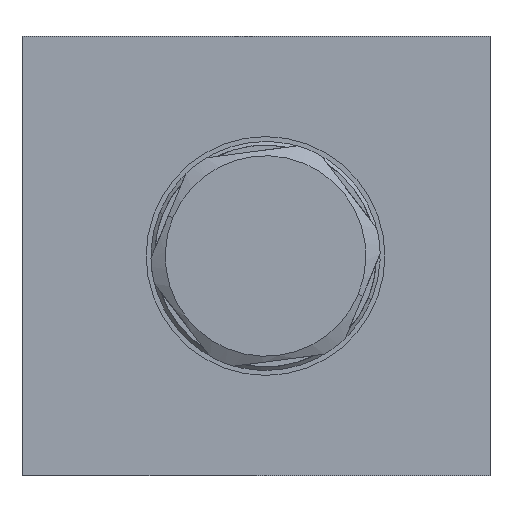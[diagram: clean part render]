
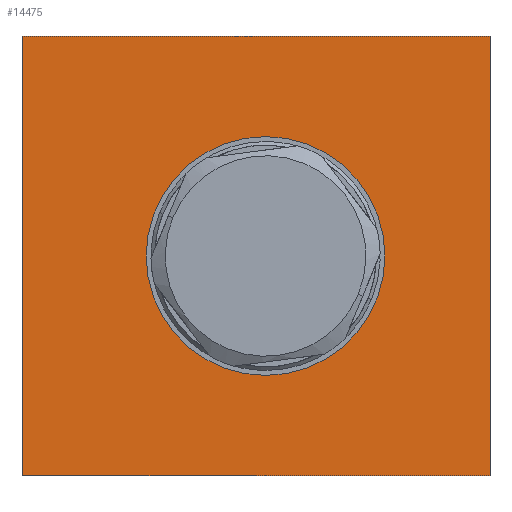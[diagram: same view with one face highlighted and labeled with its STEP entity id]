
A CAD part, left-side view. The second image highlights one B-rep face of the part: STEP entity #14475.
In plain terms, the highlighted planar face has unit normal (-1, 0, 0).
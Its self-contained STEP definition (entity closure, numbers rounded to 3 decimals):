
#386 = AXIS2_PLACEMENT_3D ( 'NONE', #13324, #32702, #16112 ) ;
#598 = CARTESIAN_POINT ( 'NONE',  ( 0., 24.5, 23. ) ) ;
#1261 = CIRCLE ( 'NONE', #13890, 12.5 ) ;
#1908 = CARTESIAN_POINT ( 'NONE',  ( 0., 24.5, -23. ) ) ;
#2187 = DIRECTION ( 'NONE',  ( 0., -1., 0. ) ) ;
#2449 = EDGE_CURVE ( 'NONE', #23565, #31616, #9816, .T. ) ;
#2511 = FACE_BOUND ( 'NONE', #21112, .T. ) ;
#4077 = CARTESIAN_POINT ( 'NONE',  ( 0., -24.5, -23. ) ) ;
#4408 = EDGE_CURVE ( 'NONE', #10209, #27094, #30276, .T. ) ;
#8697 = ORIENTED_EDGE ( 'NONE', *, *, #4408, .F. ) ;
#9101 = CARTESIAN_POINT ( 'NONE',  ( 0., -24.5, -23. ) ) ;
#9346 = ORIENTED_EDGE ( 'NONE', *, *, #34737, .F. ) ;
#9707 = CARTESIAN_POINT ( 'NONE',  ( 0., -13.5, 0. ) ) ;
#9764 = LINE ( 'NONE', #598, #30108 ) ;
#9816 = CIRCLE ( 'NONE', #22433, 12.5 ) ;
#10209 = VERTEX_POINT ( 'NONE', #18043 ) ;
#11595 = DIRECTION ( 'NONE',  ( -1., 0., 0. ) ) ;
#13178 = ORIENTED_EDGE ( 'NONE', *, *, #2449, .F. ) ;
#13324 = CARTESIAN_POINT ( 'NONE',  ( 0., 0., 0. ) ) ;
#13590 = ORIENTED_EDGE ( 'NONE', *, *, #20785, .F. ) ;
#13890 = AXIS2_PLACEMENT_3D ( 'NONE', #28200, #11595, #30976 ) ;
#14475 = ADVANCED_FACE ( 'NONE', ( #24528, #2511 ), #32581, .T. ) ;
#14779 = EDGE_CURVE ( 'NONE', #19307, #17522, #9764, .T. ) ;
#15805 = DIRECTION ( 'NONE',  ( 0., -1., 0. ) ) ;
#16112 = DIRECTION ( 'NONE',  ( 0., 0., 1. ) ) ;
#16371 = ORIENTED_EDGE ( 'NONE', *, *, #20144, .F. ) ;
#17522 = VERTEX_POINT ( 'NONE', #24872 ) ;
#18043 = CARTESIAN_POINT ( 'NONE',  ( 0., -24.5, 23. ) ) ;
#18582 = CARTESIAN_POINT ( 'NONE',  ( 0., -24.5, 23. ) ) ;
#18699 = DIRECTION ( 'NONE',  ( -1., 0., 0. ) ) ;
#19307 = VERTEX_POINT ( 'NONE', #1908 ) ;
#20144 = EDGE_CURVE ( 'NONE', #17522, #10209, #22020, .T. ) ;
#20640 = LINE ( 'NONE', #9101, #35327 ) ;
#20785 = EDGE_CURVE ( 'NONE', #27094, #19307, #20640, .T. ) ;
#20873 = DIRECTION ( 'NONE',  ( 0., 0., -1. ) ) ;
#21112 = EDGE_LOOP ( 'NONE', ( #9346, #13178 ) ) ;
#22020 = LINE ( 'NONE', #18582, #28522 ) ;
#22433 = AXIS2_PLACEMENT_3D ( 'NONE', #35256, #18699, #2187 ) ;
#22917 = VECTOR ( 'NONE', #20873, 1000. ) ;
#23565 = VERTEX_POINT ( 'NONE', #31004 ) ;
#24528 = FACE_OUTER_BOUND ( 'NONE', #33445, .T. ) ;
#24872 = CARTESIAN_POINT ( 'NONE',  ( 0., 24.5, 23. ) ) ;
#26306 = CARTESIAN_POINT ( 'NONE',  ( 0., -24.5, 23. ) ) ;
#27094 = VERTEX_POINT ( 'NONE', #4077 ) ;
#28200 = CARTESIAN_POINT ( 'NONE',  ( 0., -1., 0. ) ) ;
#28464 = DIRECTION ( 'NONE',  ( 0., 1., 0. ) ) ;
#28522 = VECTOR ( 'NONE', #15805, 1000. ) ;
#30108 = VECTOR ( 'NONE', #33650, 1000. ) ;
#30276 = LINE ( 'NONE', #26306, #22917 ) ;
#30976 = DIRECTION ( 'NONE',  ( 0., -1., 0. ) ) ;
#31004 = CARTESIAN_POINT ( 'NONE',  ( 0., 11.5, 0. ) ) ;
#31616 = VERTEX_POINT ( 'NONE', #9707 ) ;
#32581 = PLANE ( 'NONE',  #386 ) ;
#32702 = DIRECTION ( 'NONE',  ( -1., 0., 0. ) ) ;
#33357 = ORIENTED_EDGE ( 'NONE', *, *, #14779, .F. ) ;
#33445 = EDGE_LOOP ( 'NONE', ( #13590, #8697, #16371, #33357 ) ) ;
#33650 = DIRECTION ( 'NONE',  ( 0., 0., 1. ) ) ;
#34737 = EDGE_CURVE ( 'NONE', #31616, #23565, #1261, .T. ) ;
#35256 = CARTESIAN_POINT ( 'NONE',  ( 0., -1., 0. ) ) ;
#35327 = VECTOR ( 'NONE', #28464, 1000. ) ;
